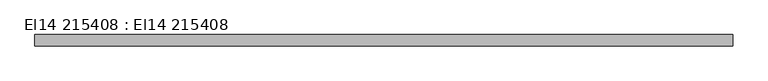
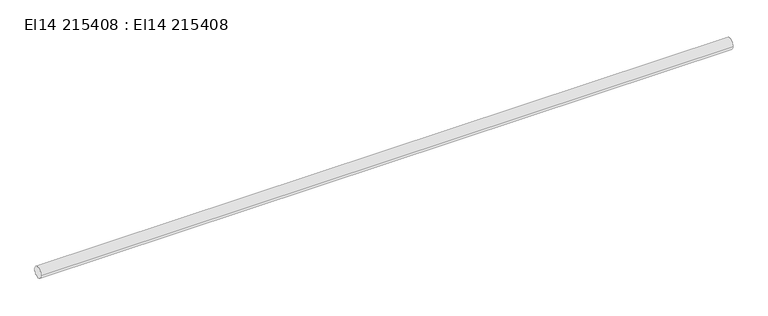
"""IFC4 building model written with IfcOpenShell, lengths in millimetres: cable carrier segment geometry, El14 215408 : El14 215408."""

from ifc_helpers import new_model, si_unit, point, frame, frame_2d, origin, place, context, project, spatial, circle_curve, trimmed, segment, composite_curve, outline, extrude, source, transform, mapped, element, save


def el14_215408_el14_215408_e454468b(model_context):
    return source(origin(), model_context, "Body", "SweptSolid", [
        extrude(outline(composite_curve([segment(trimmed(circle_curve(frame_2d((17022.1, 4200.0)), 9.5), [point((17012.6, 4200.0))], [point((17031.6, 4200.0))], False, "CARTESIAN"), True, "CONTINUOUS"), segment(trimmed(circle_curve(frame_2d((17022.1, 4200.0)), 9.5), [point((17031.6, 4200.0))], [point((17012.6, 4200.0))], False, "CARTESIAN"), True, "CONTINUOUS")], self_intersect=False)), frame((22105.0, 0.0, 0.0), z_axis=(1.0, 0.0, 0.0), x_axis=(0.0, 1.0, 0.0)), (0.0, 0.0, 1.0), 1180.0),
    ])


if __name__ == "__main__":
    model = new_model("IFC4")
    model_context = context("Model", 3, world=origin())
    ifc_project = project(units=[si_unit("LENGTHUNIT", "METRE", prefix="MILLI")], contexts=[model_context])
    site = spatial("IfcSite", under=ifc_project)
    building = spatial("IfcBuilding", under=site)
    placement = place(None, origin())
    el14_215408_el14_215408_shape = el14_215408_el14_215408_e454468b(model_context)
    element("IfcCableCarrierSegment", 1, ObjectType="El14 215408 : El14 215408", at=placement, inside=building, context=model_context, shape_type="MappedRepresentation", body=[
        mapped(el14_215408_el14_215408_shape, transform((0.0, 0.0, 0.0), x_axis=(1.0, 0.0, 0.0), y_axis=(0.0, 1.0, 0.0), z_axis=(0.0, 0.0, 1.0))),
    ])
    save(model, "model.ifc")
